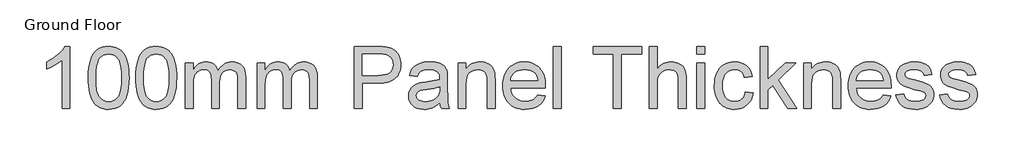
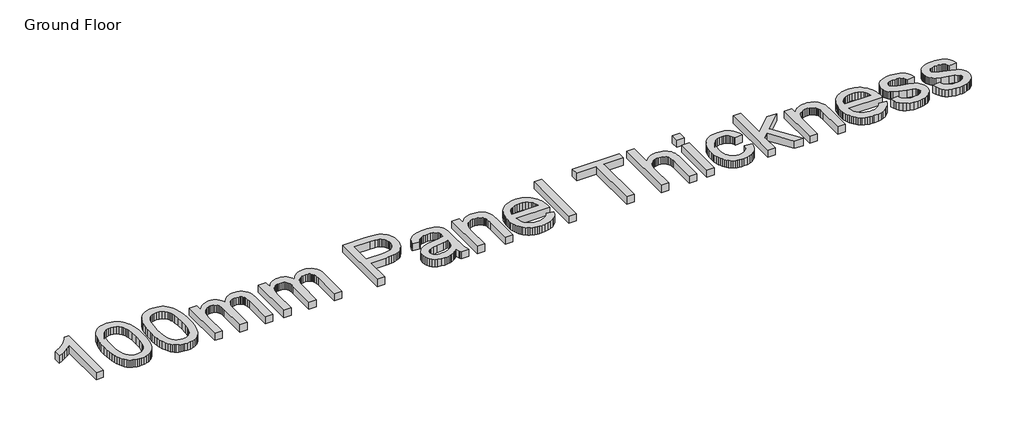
# One storey, part 7 of 9: 1 proxy.
"""IFC4 building model written with IfcOpenShell, lengths in millimetres."""

from ifc_helpers import new_model, si_unit, origin, origin_with_axes, place, context, project, spatial, polyline, outline, extrude, element, save

model = new_model("IFC4")

# Units and contexts
model_context = context("Model", 3, world=origin())
ifc_project = project(units=[si_unit("LENGTHUNIT", "METRE", prefix="MILLI")], contexts=[model_context])

# Site, building, storey
site = spatial("IfcSite", under=ifc_project)
building = spatial("IfcBuilding", under=site)
storey = spatial("IfcBuildingStorey", under=building, Name="Ground Floor", Elevation=0.0)

# Proxy
placement = place(None, origin())
element("IfcBuildingElementProxy", 1, Name="1200mm Arial", ObjectType="1200mm Arial", at=placement, inside=storey, context=model_context, shape_type="SweptSolid", body=[
    extrude(outline(polyline([(-21132.0074937, 10511.1336271), (-21278.9165846, 10511.1336271), (-21278.9165846, 11427.0199908), (-21340.2482607, 11377.4166527), (-21418.0785164, 11327.8850476), (-21499.7823516, 11284.5942095), (-21572.7347664, 11253.7131726), (-21572.7347664, 11392.5881726), (-21513.1157146, 11422.4828814), (-21457.352309, 11455.3545078), (-21405.4445498, 11491.2030519), (-21357.3924369, 11530.0285135), (-21314.6306293, 11570.0375689), (-21278.5937863, 11609.4368942), (-21249.2819078, 11648.2264894), (-21226.6949937, 11686.4063544), (-21132.0074937, 11686.4063544), (-21132.0074937, 10511.1336271)])), origin_with_axes(), (0.0, 0.0, 1.0), 150.0),
    extrude(outline(polyline([(-20783.0984028, 11089.3012408), (-20780.3994504, 11188.1223523), (-20772.3025931, 11277.4209141), (-20758.8078311, 11357.1969261), (-20739.9151641, 11427.4503885), (-20715.705292, 11488.7551648), (-20686.2589141, 11541.6851186), (-20651.5760306, 11586.24025), (-20611.6566414, 11622.420559), (-20566.3662472, 11650.4143445), (-20515.5703488, 11670.4099055), (-20459.2689461, 11682.4072422), (-20397.4620391, 11686.4063544), (-20351.0149511, 11684.0391669), (-20306.9350505, 11676.9376044), (-20265.2223374, 11665.1016669), (-20225.8768119, 11648.5313544), (-20189.8489355, 11627.5046321), (-20158.0891698, 11602.2994652), (-20130.597515, 11572.9158537), (-20107.373971, 11539.3537976), (-20087.2528772, 11501.7477962), (-20069.0685732, 11460.2323487), (-20038.5103346, 11365.4731158), (-20026.8357963, 11309.7455767), (-20018.4968403, 11245.1410845), (-20013.4934667, 11171.6596392), (-20011.8256755, 11089.3012408), (-20014.4977281, 10991.1077926), (-20022.5138857, 10902.2575618), (-20035.8741485, 10822.7505483), (-20054.5785164, 10752.5867521), (-20078.6000896, 10691.255076), (-20107.9119681, 10638.2444226), (-20142.5141521, 10593.5547919), (-20182.4066414, 10557.186184), (-20227.7508353, 10529.0040994), (-20278.7081329, 10508.8740391), (-20335.2785342, 10496.7960029), (-20397.4620391, 10492.7699908), (-20439.0671528, 10494.5184815), (-20478.3768119, 10499.7639538), (-20515.3910164, 10508.5064077), (-20550.1097664, 10520.745843), (-20582.5330619, 10536.48226), (-20612.6609028, 10555.7156584), (-20640.4932891, 10578.4460384), (-20666.030221, 10604.6733999), (-20693.4680761, 10646.2022972), (-20717.2475505, 10693.1739325), (-20737.3686443, 10745.5883058), (-20753.8313573, 10803.4454169), (-20766.6356897, 10866.745266), (-20775.7816414, 10935.487853), (-20781.2692124, 11009.6731779), (-20783.0984028, 11089.3012408)]), holes=[polyline([(-20636.1893119, 11089.5881726), (-20631.8853346, 10961.8766136), (-20618.9734028, 10858.5004595), (-20609.2894539, 10815.9381593), (-20597.4535164, 10779.4597102), (-20583.4655903, 10749.0651124), (-20567.3256755, 10724.7543658), (-20530.8853346, 10687.533929), (-20490.4279482, 10660.9479027), (-20445.9535164, 10644.9962869), (-20397.4620391, 10639.6790817), (-20348.9705619, 10645.0142202), (-20304.4961301, 10661.0196357), (-20264.0387437, 10687.6953281), (-20227.5984028, 10725.0412976), (-20211.458488, 10749.4103272), (-20197.4705619, 10779.8363082), (-20185.6346244, 10816.3192406), (-20175.9506755, 10858.8591243), (-20163.0387437, 10962.1097457), (-20158.7347664, 11089.5881726), (-20162.8952778, 11213.9193161), (-20175.3768119, 11315.4752465), (-20184.7379624, 11357.7125068), (-20196.1793687, 11394.2559638), (-20209.7010306, 11425.1056176), (-20225.3029482, 11450.261468), (-20261.133559, 11489.3021286), (-20302.0572096, 11517.1883146), (-20348.0738999, 11533.9200263), (-20399.1836301, 11539.4972635), (-20447.424042, 11534.5835561), (-20491.1452778, 11519.842434), (-20530.3473374, 11495.273897), (-20565.030221, 11460.8779453), (-20581.7081329, 11433.045559), (-20596.1623232, 11399.904934), (-20608.392792, 11361.4560703), (-20618.3995391, 11317.698968), (-20631.7418687, 11214.2600476), (-20636.1893119, 11089.5881726)])]), origin_with_axes(), (0.0, 0.0, 1.0), 150.0),
    extrude(outline(polyline([(-19883.280221, 11089.3012408), (-19880.5812686, 11188.1223523), (-19872.4844113, 11277.4209141), (-19858.9896492, 11357.1969261), (-19840.0969823, 11427.4503885), (-19815.8871102, 11488.7551648), (-19786.4407323, 11541.6851186), (-19751.7578488, 11586.24025), (-19711.8384596, 11622.420559), (-19666.5480654, 11650.4143445), (-19615.752167, 11670.4099055), (-19559.4507643, 11682.4072422), (-19497.6438573, 11686.4063544), (-19451.1967693, 11684.0391669), (-19407.1168687, 11676.9376044), (-19365.4041556, 11665.1016669), (-19326.0586301, 11648.5313544), (-19290.0307536, 11627.5046321), (-19258.270988, 11602.2994652), (-19230.7793332, 11572.9158537), (-19207.5557891, 11539.3537976), (-19187.4346954, 11501.7477962), (-19169.2503914, 11460.2323487), (-19138.6921528, 11365.4731158), (-19127.0176144, 11309.7455767), (-19118.6786585, 11245.1410845), (-19113.6752849, 11171.6596392), (-19112.0074937, 11089.3012408), (-19114.6795463, 10991.1077926), (-19122.6957039, 10902.2575618), (-19136.0559667, 10822.7505483), (-19154.7603346, 10752.5867521), (-19178.7819078, 10691.255076), (-19208.0937863, 10638.2444226), (-19242.6959703, 10593.5547919), (-19282.5884596, 10557.186184), (-19327.9326535, 10529.0040994), (-19378.8899511, 10508.8740391), (-19435.4603524, 10496.7960029), (-19497.6438573, 10492.7699908), (-19539.248971, 10494.5184815), (-19578.5586301, 10499.7639538), (-19615.5728346, 10508.5064077), (-19650.2915846, 10520.745843), (-19682.7148801, 10536.48226), (-19712.842721, 10555.7156584), (-19740.6751073, 10578.4460384), (-19766.2120391, 10604.6733999), (-19793.6498943, 10646.2022972), (-19817.4293687, 10693.1739325), (-19837.5504624, 10745.5883058), (-19854.0131755, 10803.4454169), (-19866.8175079, 10866.745266), (-19875.9634596, 10935.487853), (-19881.4510306, 11009.6731779), (-19883.280221, 11089.3012408)]), holes=[polyline([(-19736.3711301, 11089.5881726), (-19732.0671528, 10961.8766136), (-19719.155221, 10858.5004595), (-19709.4712721, 10815.9381593), (-19697.6353346, 10779.4597102), (-19683.6474085, 10749.0651124), (-19667.5074937, 10724.7543658), (-19631.0671528, 10687.533929), (-19590.6097664, 10660.9479027), (-19546.1353346, 10644.9962869), (-19497.6438573, 10639.6790817), (-19449.1523801, 10645.0142202), (-19404.6779482, 10661.0196357), (-19364.2205619, 10687.6953281), (-19327.780221, 10725.0412976), (-19311.6403062, 10749.4103272), (-19297.6523801, 10779.8363082), (-19285.8164426, 10816.3192406), (-19276.1324937, 10858.8591243), (-19263.2205619, 10962.1097457), (-19258.9165846, 11089.5881726), (-19263.077096, 11213.9193161), (-19275.5586301, 11315.4752465), (-19284.9197806, 11357.7125068), (-19296.3611869, 11394.2559638), (-19309.8828488, 11425.1056176), (-19325.4847664, 11450.261468), (-19361.3153772, 11489.3021286), (-19402.2390278, 11517.1883146), (-19448.2557181, 11533.9200263), (-19499.3654482, 11539.4972635), (-19547.6058602, 11534.5835561), (-19591.327096, 11519.842434), (-19630.5291556, 11495.273897), (-19665.2120391, 11460.8779453), (-19681.8899511, 11433.045559), (-19696.3441414, 11399.904934), (-19708.5746102, 11361.4560703), (-19718.5813573, 11317.698968), (-19731.9236869, 11214.2600476), (-19736.3711301, 11089.5881726)])]), origin_with_axes(), (0.0, 0.0, 1.0), 150.0),
    extrude(outline(polyline([(-18946.7347664, 10511.1336271), (-18946.7347664, 11374.2245362), (-18799.8256755, 11374.2245362), (-18799.8256755, 11232.1932862), (-18779.3100505, 11266.5802713), (-18755.6381755, 11297.4344084), (-18728.8100505, 11324.7556975), (-18698.8256755, 11348.5441385), (-18666.169248, 11367.8134034), (-18631.3249653, 11381.5771641), (-18594.2928275, 11389.8354205), (-18555.0728346, 11392.5881726), (-18512.194461, 11389.7816207), (-18473.3689994, 11381.3619652), (-18438.5964497, 11367.329206), (-18407.8768119, 11347.683343), (-18381.2997522, 11322.9803068), (-18358.9549369, 11293.7760277), (-18340.8423659, 11260.0705057), (-18326.9620391, 11221.8637408), (-18301.1292089, 11261.8772795), (-18273.4133886, 11296.5556797), (-18243.8145782, 11325.8989414), (-18212.3327778, 11349.9070646), (-18178.9679873, 11368.5800494), (-18143.7202068, 11381.9178956), (-18106.5894362, 11389.9206033), (-18067.5756755, 11392.5881726), (-18008.7636194, 11388.149696), (-17957.142792, 11374.8342663), (-17912.7131933, 11352.6418835), (-17875.4748232, 11321.5725476), (-17846.037412, 11281.2675938), (-17825.0106897, 11231.3683573), (-17812.3946563, 11171.8748381), (-17808.1893119, 11102.7870362), (-17808.1893119, 10511.1336271), (-17955.0984028, 10511.1336271), (-17955.0984028, 11039.6620362), (-17958.5057181, 11112.9372493), (-17968.7276641, 11162.3253885), (-17976.9231542, 11180.1420611), (-17987.880363, 11196.1474766), (-18001.5992906, 11210.341635), (-18018.0799369, 11222.7245362), (-18036.7215384, 11232.7671499), (-18056.9233318, 11239.9404453), (-18102.0074937, 11245.6790817), (-18143.6395072, 11242.0027678), (-18181.5952068, 11230.973826), (-18215.8745924, 11212.5922564), (-18246.4776641, 11186.858059), (-18271.6469646, 11153.0180377), (-18289.6250363, 11110.3189965), (-18300.4118793, 11058.7609354), (-18304.0074937, 10998.3438544), (-18304.0074937, 10511.1336271), (-18450.9165846, 10511.1336271), (-18450.9165846, 11056.0171499), (-18453.0416734, 11100.5274482), (-18459.4169397, 11139.0839112), (-18470.0423836, 11171.6865391), (-18484.9180051, 11198.3353317), (-18504.6356009, 11219.0482223), (-18529.7869681, 11233.8431442), (-18560.3721066, 11242.7200973), (-18596.3910164, 11245.6790817), (-18625.2455974, 11243.7064254), (-18652.9883176, 11237.7884567), (-18679.6191769, 11227.9251754), (-18705.1381755, 11214.1165817), (-18728.3796528, 11196.5061413), (-18748.1779482, 11175.2373203), (-18764.5330619, 11150.3101186), (-18777.4449937, 11121.7245362), (-18787.236542, 11087.9562479), (-18794.2305051, 11047.4809283), (-18799.8256755, 10946.4091953), (-18799.8256755, 10511.1336271), (-18946.7347664, 10511.1336271)])), origin_with_axes(), (0.0, 0.0, 1.0), 150.0),
    extrude(outline(polyline([(-17587.8256755, 10511.1336271), (-17587.8256755, 11374.2245362), (-17440.9165846, 11374.2245362), (-17440.9165846, 11232.1932862), (-17420.4009596, 11266.5802713), (-17396.7290846, 11297.4344084), (-17369.9009596, 11324.7556975), (-17339.9165846, 11348.5441385), (-17307.260157, 11367.8134034), (-17272.4158744, 11381.5771641), (-17235.3837366, 11389.8354205), (-17196.1637437, 11392.5881726), (-17153.2853701, 11389.7816207), (-17114.4599085, 11381.3619652), (-17079.6873588, 11367.329206), (-17048.967721, 11347.683343), (-17022.3906613, 11322.9803068), (-17000.045846, 11293.7760277), (-16981.9332749, 11260.0705057), (-16968.0529482, 11221.8637408), (-16942.220118, 11261.8772795), (-16914.5042977, 11296.5556797), (-16884.9054873, 11325.8989414), (-16853.4236869, 11349.9070646), (-16820.0588964, 11368.5800494), (-16784.8111159, 11381.9178956), (-16747.6803453, 11389.9206033), (-16708.6665846, 11392.5881726), (-16649.8545285, 11388.149696), (-16598.2337011, 11374.8342663), (-16553.8041024, 11352.6418835), (-16516.5657323, 11321.5725476), (-16487.1283211, 11281.2675938), (-16466.1015988, 11231.3683573), (-16453.4855654, 11171.8748381), (-16449.280221, 11102.7870362), (-16449.280221, 10511.1336271), (-16596.1893119, 10511.1336271), (-16596.1893119, 11039.6620362), (-16599.5966272, 11112.9372493), (-16609.8185732, 11162.3253885), (-16618.0140633, 11180.1420611), (-16628.9712721, 11196.1474766), (-16642.6901997, 11210.341635), (-16659.170846, 11222.7245362), (-16677.8124475, 11232.7671499), (-16698.0142409, 11239.9404453), (-16743.0984028, 11245.6790817), (-16784.7304163, 11242.0027678), (-16822.6861159, 11230.973826), (-16856.9655015, 11212.5922564), (-16887.5685732, 11186.858059), (-16912.7378737, 11153.0180377), (-16930.7159454, 11110.3189965), (-16941.5027884, 11058.7609354), (-16945.0984028, 10998.3438544), (-16945.0984028, 10511.1336271), (-17092.0074937, 10511.1336271), (-17092.0074937, 11056.0171499), (-17094.1325825, 11100.5274482), (-17100.5078488, 11139.0839112), (-17111.1332927, 11171.6865391), (-17126.0089141, 11198.3353317), (-17145.72651, 11219.0482223), (-17170.8778772, 11233.8431442), (-17201.4630157, 11242.7200973), (-17237.4819255, 11245.6790817), (-17266.3365065, 11243.7064254), (-17294.0792266, 11237.7884567), (-17320.710086, 11227.9251754), (-17346.2290846, 11214.1165817), (-17369.4705619, 11196.5061413), (-17389.2688573, 11175.2373203), (-17405.623971, 11150.3101186), (-17418.5359028, 11121.7245362), (-17428.3274511, 11087.9562479), (-17435.3214141, 11047.4809283), (-17440.9165846, 10946.4091953), (-17440.9165846, 10511.1336271), (-17587.8256755, 10511.1336271)])), origin_with_axes(), (0.0, 0.0, 1.0), 150.0),
    extrude(outline(polyline([(-15751.4620391, 10511.1336271), (-15751.4620391, 11686.4063544), (-15315.8995391, 11686.4063544), (-15214.4691414, 11683.6087692), (-15140.2972664, 11675.2160135), (-15099.418449, 11666.4018267), (-15062.0007465, 11654.3058573), (-15028.0441592, 11638.9281051), (-14997.5486869, 11620.2685703), (-14970.1915313, 11597.9416882), (-14945.6498943, 11571.5618942), (-14923.9237757, 11541.1291882), (-14905.0131755, 11506.6435703), (-14889.6981897, 11469.2438011), (-14878.7589141, 11430.0686413), (-14872.1953488, 11389.1180909), (-14870.0074937, 11346.3921499), (-14875.9164958, 11274.2467308), (-14883.3027485, 11240.3394599), (-14893.6435022, 11207.8758146), (-14906.938757, 11176.8557951), (-14923.1885129, 11147.2794013), (-14942.3927698, 11119.1466332), (-14964.5515278, 11092.4574908), (-14990.5659321, 11068.1131193), (-15021.3371279, 11047.0146641), (-15056.8651153, 11029.162125), (-15097.1498943, 11014.5555021), (-15142.1914648, 11003.1947955), (-15191.9898268, 10995.080005), (-15246.5449804, 10990.2111307), (-15305.8569255, 10988.5881726), (-15604.5529482, 10988.5881726), (-15604.5529482, 10511.1336271), (-15751.4620391, 10511.1336271)]), holes=[polyline([(-15604.5529482, 11135.4972635), (-15297.248971, 11135.4972635), (-15226.5920107, 11138.8687124), (-15166.9819255, 11148.983059), (-15118.4187153, 11165.8403033), (-15080.9023801, 11189.4404453), (-15052.9085945, 11219.1558217), (-15032.9130335, 11254.3587692), (-15020.9156968, 11295.0492877), (-15016.9165846, 11341.2273771), (-15019.2748055, 11375.5157294), (-15026.3494681, 11407.2216953), (-15038.1405725, 11436.3452749), (-15054.6481187, 11462.886468), (-15074.9933779, 11485.9844794), (-15098.2976215, 11504.7785135), (-15124.5608495, 11519.2685703), (-15153.7830619, 11529.4546499), (-15210.452096, 11536.9866101), (-15300.6921528, 11539.4972635), (-15604.5529482, 11539.4972635), (-15604.5529482, 11135.4972635)])]), origin_with_axes(), (0.0, 0.0, 1.0), 150.0),
    extrude(outline(polyline([(-14135.4620391, 10621.3154453), (-14170.2973552, 10588.6231513), (-14205.6527352, 10561.1314965), (-14241.5281791, 10538.8404808), (-14277.9236869, 10521.7501044), (-14315.2517231, 10509.0713047), (-14353.9247522, 10500.0150192), (-14393.9427742, 10494.5812479), (-14435.3057891, 10492.7699908), (-14500.7172771, 10497.1277678), (-14558.0767409, 10510.2010987), (-14607.3841805, 10531.9899837), (-14648.639596, 10562.4944226), (-14681.215324, 10599.7776257), (-14704.4837011, 10641.9028033), (-14718.4447274, 10688.8699553), (-14723.0984028, 10740.6790817), (-14721.3409454, 10771.8291172), (-14716.0685732, 10801.5803601), (-14707.2812863, 10829.9328104), (-14694.9790846, 10856.886468), (-14679.8165313, 10881.8495362), (-14662.4481897, 10904.230218), (-14642.8740597, 10924.0285135), (-14621.0941414, 10941.2444226), (-14572.4950647, 10969.2202749), (-14518.2290846, 10989.448968), (-14465.3618971, 11000.7110419), (-14391.1182891, 11011.542718), (-14240.9094823, 11034.7841953), (-14182.9133886, 11047.911326), (-14136.3228346, 11062.042718), (-14135.4620391, 11094.7529453), (-14137.9906258, 11130.3683573), (-14145.5763857, 11160.3168658), (-14158.219319, 11184.5984709), (-14175.9194255, 11203.2131726), (-14206.5135306, 11221.7920078), (-14243.7788005, 11235.0626044), (-14287.7152352, 11243.0249624), (-14338.3228346, 11245.6790817), (-14385.3796528, 11243.9126577), (-14425.8370391, 11238.6133857), (-14459.6949937, 11229.7812656), (-14486.9535164, 11217.4162976), (-14509.3521315, 11200.5500867), (-14528.630363, 11178.2142379), (-14544.788211, 11150.4087514), (-14557.8256755, 11117.1336271), (-14704.7347664, 11135.4972635), (-14693.5533921, 11177.8197067), (-14679.2337011, 11215.8381726), (-14661.7756933, 11249.5526612), (-14641.1793687, 11278.9631726), (-14616.557032, 11304.6615036), (-14587.020988, 11327.239451), (-14552.5712366, 11346.6970149), (-14513.2077778, 11363.0341953), (-14469.7286407, 11375.9640604), (-14422.9318545, 11385.1996783), (-14372.8174191, 11390.741049), (-14319.3853346, 11392.5881726), (-14267.1547771, 11390.9562479), (-14220.071059, 11386.0604737), (-14178.1341805, 11377.9008502), (-14141.3441414, 11366.4773771), (-14109.3960768, 11352.5880838), (-14081.9851215, 11337.0309993), (-14059.1112757, 11319.8061236), (-14040.7745391, 11300.9134567), (-14025.9078843, 11279.8867344), (-14013.4442835, 11256.2596925), (-13995.7262437, 11201.2046499), (-13990.3462721, 11150.417718), (-13988.5529482, 11072.6591953), (-13988.5529482, 10889.8836271), (-13986.6878914, 10730.6723345), (-13981.092721, 10634.6577749), (-13970.045846, 10571.5686413), (-13951.8256755, 10511.1336271), (-14098.7347664, 10511.1336271), (-14111.7901641, 10535.6662976), (-14122.2631755, 10562.2074908), (-14135.4620391, 10621.3154453)]), holes=[polyline([(-14135.4620391, 10915.1336271), (-14179.864738, 10902.4189609), (-14234.1665846, 10890.6726896), (-14372.467721, 10870.0853317), (-14448.6839852, 10858.8232578), (-14498.8611869, 10846.2699908), (-14531.7507465, 10829.9866101), (-14556.1040846, 10807.5341953), (-14571.1680051, 10780.6343374), (-14576.1893119, 10751.0086271), (-14573.454493, 10728.1796144), (-14565.2500363, 10707.3232578), (-14551.5759418, 10688.4395575), (-14532.4322096, 10671.5285135), (-14507.998172, 10657.5943871), (-14478.4531613, 10647.6414396), (-14443.7971776, 10641.6696712), (-14404.030221, 10639.6790817), (-14363.4293687, 10641.8759034), (-14325.123971, 10648.4663686), (-14289.1140278, 10659.4504773), (-14255.3995391, 10674.8282294), (-14224.9847664, 10693.3263651), (-14198.873971, 10713.6716243), (-14177.0671528, 10735.8640071), (-14159.5643119, 10759.9035135), (-14149.3961656, 10781.4233999), (-14142.1332039, 10807.5341953), (-14137.7754269, 10838.2358999), (-14136.3228346, 10873.5285135), (-14135.4620391, 10915.1336271)])]), origin_with_axes(), (0.0, 0.0, 1.0), 150.0),
    extrude(outline(polyline([(-13786.5529482, 10511.1336271), (-13786.5529482, 11374.2245362), (-13639.6438573, 11374.2245362), (-13639.6438573, 11253.7131726), (-13615.4070853, 11286.2620007), (-13588.6058602, 11314.4709851), (-13559.2401819, 11338.3401257), (-13527.3100505, 11357.8694226), (-13492.815466, 11373.0588757), (-13455.7564284, 11383.9084851), (-13416.1329376, 11390.4182507), (-13373.9449937, 11392.5881726), (-13336.9756222, 11390.8396818), (-13301.5305761, 11385.5942095), (-13267.6098552, 11376.8517557), (-13235.2134596, 11364.6123203), (-13205.5698161, 11349.5304666), (-13179.9073516, 11332.2607578), (-13158.2260661, 11312.8031939), (-13140.5259596, 11291.1577749), (-13113.805434, 11241.4109709), (-13096.4819255, 11183.1279453), (-13090.6715562, 11127.3914396), (-13088.7347664, 11041.0966953), (-13088.7347664, 10511.1336271), (-13235.6438573, 10511.1336271), (-13235.6438573, 11021.2983999), (-13239.8761016, 11097.2635987), (-13245.166407, 11127.0148416), (-13252.5728346, 11151.2785135), (-13262.6602813, 11171.7134389), (-13275.9936443, 11189.9784425), (-13292.5729234, 11206.0735242), (-13312.3981187, 11219.998684), (-13334.7877671, 11231.233858), (-13359.0604056, 11239.2589823), (-13385.2160342, 11244.0740568), (-13413.2546528, 11245.6790817), (-13457.8635839, 11242.0745007), (-13499.2983318, 11231.2607578), (-13537.5588964, 11213.237853), (-13572.6452778, 11188.0057862), (-13588.3480699, 11171.9689876), (-13601.9571563, 11152.6952394), (-13613.4725372, 11130.1845416), (-13622.8942124, 11104.4368942), (-13635.4564461, 11043.2307507), (-13639.6438573, 10969.076809), (-13639.6438573, 10511.1336271), (-13786.5529482, 10511.1336271)])), origin_with_axes(), (0.0, 0.0, 1.0), 150.0),
    extrude(outline(polyline([(-12282.4563573, 10768.2245362), (-12138.4165846, 10749.8608999), (-12160.501368, 10692.1696712), (-12190.3153772, 10641.3289396), (-12227.8586123, 10597.3387053), (-12273.1310732, 10560.198968), (-12325.6664958, 10530.6987905), (-12384.9986159, 10509.6272351), (-12451.1274333, 10496.9843019), (-12524.0529482, 10492.7699908), (-12570.872151, 10494.5879728), (-12615.2076002, 10500.041919), (-12657.0592959, 10509.1318294), (-12696.427238, 10521.8577038), (-12733.3114266, 10538.2195424), (-12767.7118616, 10558.2173452), (-12799.6285431, 10581.851112), (-12829.061471, 10609.120843), (-12855.4905814, 10639.6723567), (-12878.3958105, 10673.1514716), (-12897.7771581, 10709.5581877), (-12913.6346244, 10748.892505), (-12925.9682092, 10791.1544235), (-12934.7779127, 10836.3439432), (-12940.0637348, 10884.4610641), (-12941.8256755, 10935.5057862), (-12940.0458016, 10988.2877908), (-12934.7061798, 11038.0301115), (-12925.8068101, 11084.7327482), (-12913.3476926, 11128.395701), (-12897.3288271, 11169.0189698), (-12877.7502139, 11206.6025547), (-12854.6118527, 11241.1464556), (-12827.9137437, 11272.6506726), (-12798.3776997, 11300.7610242), (-12766.7255335, 11325.1233288), (-12732.9572451, 11345.7375867), (-12697.0728346, 11362.6037976), (-12659.0723019, 11375.7219617), (-12618.9556471, 11385.0920788), (-12576.7228701, 11390.7141492), (-12532.373971, 11392.5881726), (-12489.4754225, 11390.7186325), (-12448.5809134, 11385.1100121), (-12409.6904438, 11375.7623114), (-12372.8040136, 11362.6755305), (-12337.9216228, 11345.8496694), (-12305.0432714, 11325.284728), (-12274.1689594, 11300.9807063), (-12245.2986869, 11272.9376044), (-12219.1721998, 11241.5051204), (-12196.5292444, 11207.0329524), (-12177.3698206, 11169.5211005), (-12161.6939284, 11128.9695646), (-12149.5015677, 11085.3783448), (-12140.7927387, 11038.7474411), (-12135.5674413, 10989.0768533), (-12133.8256755, 10936.3665817), (-12134.686471, 10896.7699908), (-12794.9165846, 10896.7699908), (-12786.4072629, 10838.1462337), (-12769.4872522, 10786.8033715), (-12744.1565526, 10742.7414041), (-12710.4151641, 10705.9603317), (-12670.1281436, 10676.9622848), (-12625.1605477, 10656.2493942), (-12575.5123765, 10643.8216598), (-12521.1836301, 10639.6790817), (-12480.5469113, 10641.5979382), (-12442.9947096, 10647.3545078), (-12408.5270249, 10656.9487905), (-12377.1438573, 10670.3807862), (-12348.8452068, 10688.0091598), (-12323.6310732, 10710.192576), (-12301.5014568, 10736.9310348), (-12282.4563573, 10768.2245362)]), holes=[polyline([(-12794.9165846, 11043.6790817), (-12280.7347664, 11043.6790817), (-12288.2846599, 11085.2483288), (-12300.6047948, 11121.2941385), (-12317.6951713, 11151.8165107), (-12339.5557891, 11176.8154453), (-12379.6186443, 11206.9432862), (-12425.2049369, 11228.4631726), (-12476.314667, 11241.3751044), (-12532.9478346, 11245.6790817), (-12584.6045285, 11242.2448665), (-12631.9751784, 11231.9422209), (-12675.0597842, 11214.7711449), (-12713.858346, 11190.7316385), (-12746.4161407, 11160.9355625), (-12770.7784454, 11126.4947777), (-12786.94526, 11087.4092841), (-12794.9165846, 11043.6790817)])]), origin_with_axes(), (0.0, 0.0, 1.0), 150.0),
    extrude(outline(polyline([(-11986.9165846, 10511.1336271), (-11986.9165846, 11686.4063544), (-11840.0074937, 11686.4063544), (-11840.0074937, 10511.1336271), (-11986.9165846, 10511.1336271)])), origin_with_axes(), (0.0, 0.0, 1.0), 150.0),
    extrude(outline(polyline([(-10848.3711301, 10511.1336271), (-10848.3711301, 11539.4972635), (-11234.0074937, 11539.4972635), (-11234.0074937, 11686.4063544), (-10315.8256755, 11686.4063544), (-10315.8256755, 11539.4972635), (-10701.4620391, 11539.4972635), (-10701.4620391, 10511.1336271), (-10848.3711301, 10511.1336271)])), origin_with_axes(), (0.0, 0.0, 1.0), 150.0),
    extrude(outline(polyline([(-10168.9165846, 10511.1336271), (-10168.9165846, 11686.4063544), (-10022.0074937, 11686.4063544), (-10022.0074937, 11254.2870362), (-9995.8563485, 11286.7013651), (-9968.0463786, 11314.7937834), (-9938.5775842, 11338.5642912), (-9907.4499653, 11358.0128885), (-9874.6635217, 11373.1395753), (-9840.2182536, 11383.9443516), (-9804.114161, 11390.4272173), (-9766.3512437, 11392.5881726), (-9720.4242195, 11390.2299517), (-9677.6175789, 11383.1552891), (-9637.9313218, 11371.3641847), (-9601.3654482, 11354.8566385), (-9568.8524866, 11334.188581), (-9541.3249653, 11309.9159425), (-9518.7828843, 11282.038723), (-9501.2262437, 11250.5569226), (-9488.0453133, 11213.5247848), (-9478.630363, 11168.9965533), (-9472.9813928, 11116.972228), (-9471.0984028, 11057.451809), (-9471.0984028, 10511.1336271), (-9618.0074937, 10511.1336271), (-9618.0074937, 11042.2444226), (-9620.9306116, 11091.8477607), (-9629.6999653, 11134.2060703), (-9644.3155548, 11169.3193516), (-9664.7773801, 11197.1876044), (-9690.6012437, 11218.4026257), (-9721.3029482, 11233.5562124), (-9756.8824937, 11242.6483644), (-9797.3398801, 11245.6790817), (-9828.857547, 11243.6346925), (-9859.4247522, 11237.5015249), (-9889.0414958, 11227.2795788), (-9917.7077778, 11212.9688544), (-9943.872373, 11195.1611484), (-9965.9840562, 11174.4482578), (-9984.0428275, 11150.8301825), (-9998.0486869, 11124.3069226), (-10008.5306649, 11093.6590178), (-10016.017792, 11057.6670078), (-10020.5100683, 11016.3308928), (-10022.0074937, 10969.6506726), (-10022.0074937, 10511.1336271), (-10168.9165846, 10511.1336271)])), origin_with_axes(), (0.0, 0.0, 1.0), 150.0),
    extrude(outline(polyline([(-9269.0984028, 10511.1336271), (-9269.0984028, 11374.2245362), (-9122.1893119, 11374.2245362), (-9122.1893119, 10511.1336271), (-9269.0984028, 10511.1336271)])), origin_with_axes(), (0.0, 0.0, 1.0), 150.0),
    extrude(outline(polyline([(-9269.0984028, 11539.4972635), (-9269.0984028, 11686.4063544), (-9122.1893119, 11686.4063544), (-9122.1893119, 11539.4972635), (-9269.0984028, 11539.4972635)])), origin_with_axes(), (0.0, 0.0, 1.0), 150.0),
    extrude(outline(polyline([(-8350.9165846, 10823.3154453), (-8204.0074937, 10804.951809), (-8219.9860093, 10735.630875), (-8244.9670107, 10674.2902323), (-8278.950498, 10620.9298807), (-8321.936471, 10575.5498203), (-8372.1136727, 10539.3336449), (-8427.670846, 10513.4649482), (-8488.6079909, 10497.9437301), (-8554.9251073, 10492.7699908), (-8597.1870258, 10494.5745229), (-8637.3193722, 10499.9881193), (-8675.3221466, 10509.01078), (-8711.1953488, 10521.642505), (-8744.938979, 10537.8832942), (-8776.553037, 10557.7331477), (-8806.037523, 10581.1920655), (-8833.3924369, 10608.2600476), (-8858.0394317, 10638.6994785), (-8879.4001606, 10672.2727429), (-8897.4746235, 10708.9798407), (-8912.2628204, 10748.820772), (-8923.7647513, 10791.7955368), (-8931.9804163, 10837.904135), (-8936.9098152, 10887.1465666), (-8938.5529482, 10939.5228317), (-8935.7463964, 11007.068375), (-8927.3267409, 11070.2561413), (-8913.2939816, 11129.0861307), (-8893.6481187, 11183.558343), (-8868.2546528, 11232.5788509), (-8836.9790846, 11275.0537266), (-8799.8214141, 11310.9829702), (-8756.7816414, 11340.3665817), (-8709.8055228, 11363.2135277), (-8660.8388147, 11379.5327749), (-8609.8815171, 11389.3243232), (-8556.9336301, 11392.5881726), (-8491.7552742, 11388.1048629), (-8432.7997522, 11374.654934), (-8380.067064, 11352.2383857), (-8333.5572096, 11320.855218), (-8294.0592515, 11281.2227607), (-8262.3622522, 11234.058343), (-8238.4662117, 11179.3619652), (-8222.3711301, 11117.1336271), (-8369.280221, 11098.7699908), (-8380.7485271, 11133.0852429), (-8395.9290136, 11162.8633857), (-8414.8216805, 11188.104419), (-8437.4265278, 11208.808343), (-8463.1696918, 11224.9392912), (-8491.477309, 11236.461397), (-8522.3493793, 11243.3746605), (-8555.7859028, 11245.6790817), (-8605.7030725, 11241.1419723), (-8650.7244681, 11227.5306442), (-8690.8500896, 11204.8450973), (-8726.0799369, 11173.0853317), (-8741.4464807, 11153.6188011), (-8754.7641521, 11131.5160845), (-8775.2528772, 11079.402093), (-8787.5461123, 11016.7433573), (-8791.6438573, 10943.5398771), (-8787.6357785, 10869.2335029), (-8775.611542, 10805.8484709), (-8755.5711478, 10753.3847813), (-8742.5448916, 10731.2484398), (-8727.514596, 10711.842434), (-8692.984145, 10680.2709673), (-8653.5220534, 10657.7199198), (-8609.1283211, 10644.1892912), (-8559.8029482, 10639.6790817), (-8520.0539248, 10642.4946002), (-8483.7301499, 10650.9411555), (-8450.8316237, 10665.0187479), (-8421.358346, 10684.7273771), (-8396.1352458, 10710.2822422), (-8375.9872522, 10741.8985419), (-8360.9143651, 10779.5762763), (-8350.9165846, 10823.3154453)])), origin_with_axes(), (0.0, 0.0, 1.0), 150.0),
    extrude(outline(polyline([(-8075.4620391, 10511.1336271), (-8075.4620391, 11686.4063544), (-7928.5529482, 11686.4063544), (-7928.5529482, 11054.8694226), (-7599.155221, 11374.2245362), (-7396.0074937, 11374.2245362), (-7729.4222664, 11050.8523771), (-7377.6438573, 10511.1336271), (-7549.2290846, 10511.1336271), (-7834.7262437, 10948.7046499), (-7928.5529482, 10857.7472635), (-7928.5529482, 10511.1336271), (-8075.4620391, 10511.1336271)])), origin_with_axes(), (0.0, 0.0, 1.0), 150.0),
    extrude(outline(polyline([(-7249.0984028, 10511.1336271), (-7249.0984028, 11374.2245362), (-7102.1893119, 11374.2245362), (-7102.1893119, 11253.7131726), (-7077.9525399, 11286.2620007), (-7051.1513147, 11314.4709851), (-7021.7856365, 11338.3401257), (-6989.8555051, 11357.8694226), (-6955.3609205, 11373.0588757), (-6918.3018829, 11383.9084851), (-6878.6783921, 11390.4182507), (-6836.4904482, 11392.5881726), (-6799.5210768, 11390.8396818), (-6764.0760306, 11385.5942095), (-6730.1553097, 11376.8517557), (-6697.7589141, 11364.6123203), (-6668.1152707, 11349.5304666), (-6642.4528062, 11332.2607578), (-6620.7715207, 11312.8031939), (-6603.0714141, 11291.1577749), (-6576.3508886, 11241.4109709), (-6559.0273801, 11183.1279453), (-6553.2170107, 11127.3914396), (-6551.280221, 11041.0966953), (-6551.280221, 10511.1336271), (-6698.1893119, 10511.1336271), (-6698.1893119, 11021.2983999), (-6702.4215562, 11097.2635987), (-6707.7118616, 11127.0148416), (-6715.1182891, 11151.2785135), (-6725.2057359, 11171.7134389), (-6738.5390988, 11189.9784425), (-6755.1183779, 11206.0735242), (-6774.9435732, 11219.998684), (-6797.3332217, 11231.233858), (-6821.6058602, 11239.2589823), (-6847.7614887, 11244.0740568), (-6875.8001073, 11245.6790817), (-6920.4090384, 11242.0745007), (-6961.8437863, 11231.2607578), (-7000.1043509, 11213.237853), (-7035.1907323, 11188.0057862), (-7050.8935244, 11171.9689876), (-7064.5026109, 11152.6952394), (-7076.0179917, 11130.1845416), (-7085.439667, 11104.4368942), (-7098.0019007, 11043.2307507), (-7102.1893119, 10969.076809), (-7102.1893119, 10511.1336271), (-7249.0984028, 10511.1336271)])), origin_with_axes(), (0.0, 0.0, 1.0), 150.0),
    extrude(outline(polyline([(-5745.0018119, 10768.2245362), (-5600.9620391, 10749.8608999), (-5623.0468225, 10692.1696712), (-5652.8608318, 10641.3289396), (-5690.4040668, 10597.3387053), (-5735.6765278, 10560.198968), (-5788.2119504, 10530.6987905), (-5847.5440704, 10509.6272351), (-5913.6728879, 10496.9843019), (-5986.5984028, 10492.7699908), (-6033.4176056, 10494.5879728), (-6077.7530548, 10500.041919), (-6119.6047504, 10509.1318294), (-6158.9726926, 10521.8577038), (-6195.8568811, 10538.2195424), (-6230.2573161, 10558.2173452), (-6262.1739976, 10581.851112), (-6291.6069255, 10609.120843), (-6318.036036, 10639.6723567), (-6340.941265, 10673.1514716), (-6360.3226127, 10709.5581877), (-6376.1800789, 10748.892505), (-6388.5136638, 10791.1544235), (-6397.3233673, 10836.3439432), (-6402.6091894, 10884.4610641), (-6404.3711301, 10935.5057862), (-6402.5912561, 10988.2877908), (-6397.2516343, 11038.0301115), (-6388.3522646, 11084.7327482), (-6375.8931471, 11128.395701), (-6359.8742817, 11169.0189698), (-6340.2956684, 11206.6025547), (-6317.1573073, 11241.1464556), (-6290.4591982, 11272.6506726), (-6260.9231542, 11300.7610242), (-6229.270988, 11325.1233288), (-6195.5026997, 11345.7375867), (-6159.6182891, 11362.6037976), (-6121.6177565, 11375.7219617), (-6081.5011016, 11385.0920788), (-6039.2683247, 11390.7141492), (-5994.9194255, 11392.5881726), (-5952.020877, 11390.7186325), (-5911.126368, 11385.1100121), (-5872.2358983, 11375.7623114), (-5835.3494681, 11362.6755305), (-5800.4670773, 11345.8496694), (-5767.5887259, 11325.284728), (-5736.714414, 11300.9807063), (-5707.8441414, 11272.9376044), (-5681.7176544, 11241.5051204), (-5659.074699, 11207.0329524), (-5639.9152751, 11169.5211005), (-5624.2393829, 11128.9695646), (-5612.0470223, 11085.3783448), (-5603.3381933, 11038.7474411), (-5598.1128959, 10989.0768533), (-5596.3711301, 10936.3665817), (-5597.2319255, 10896.7699908), (-6257.4620391, 10896.7699908), (-6248.9527174, 10838.1462337), (-6232.0327068, 10786.8033715), (-6206.7020072, 10742.7414041), (-6172.9606187, 10705.9603317), (-6132.6735981, 10676.9622848), (-6087.7060022, 10656.2493942), (-6038.0578311, 10643.8216598), (-5983.7290846, 10639.6790817), (-5943.0923659, 10641.5979382), (-5905.5401641, 10647.3545078), (-5871.0724795, 10656.9487905), (-5839.6893119, 10670.3807862), (-5811.3906613, 10688.0091598), (-5786.1765278, 10710.192576), (-5764.0469113, 10736.9310348), (-5745.0018119, 10768.2245362)]), holes=[polyline([(-6257.4620391, 11043.6790817), (-5743.280221, 11043.6790817), (-5750.8301144, 11085.2483288), (-5763.1502494, 11121.2941385), (-5780.2406258, 11151.8165107), (-5802.1012437, 11176.8154453), (-5842.1640988, 11206.9432862), (-5887.7503914, 11228.4631726), (-5938.8601215, 11241.3751044), (-5995.4932891, 11245.6790817), (-6047.149983, 11242.2448665), (-6094.5206329, 11231.9422209), (-6137.6052387, 11214.7711449), (-6176.4038005, 11190.7316385), (-6208.9615953, 11160.9355625), (-6233.3238999, 11126.4947777), (-6249.4907146, 11087.4092841), (-6257.4620391, 11043.6790817)])]), origin_with_axes(), (0.0, 0.0, 1.0), 150.0),
    extrude(outline(polyline([(-5504.5529482, 10768.2245362), (-5357.6438573, 10786.5881726), (-5348.7669042, 10753.0888828), (-5334.474113, 10723.7501044), (-5314.7654838, 10698.5718374), (-5289.6410164, 10677.5540817), (-5259.0289781, 10660.9837692), (-5222.8576357, 10649.1478317), (-5181.1269894, 10642.0462692), (-5133.8370391, 10639.6790817), (-5086.6008886, 10641.8490036), (-5045.8924369, 10648.3587692), (-5011.711684, 10659.2083786), (-4984.0586301, 10674.3978317), (-4962.7180761, 10692.5104027), (-4947.4748232, 10712.1293658), (-4938.3288715, 10733.2547209), (-4935.280221, 10755.886468), (-4938.3468048, 10775.72063), (-4947.5465562, 10793.3310703), (-4962.8794752, 10808.7177891), (-4984.3455619, 10821.8807862), (-5039.364738, 10840.5313544), (-5135.5586301, 10863.7728317), (-5269.6275221, 10902.5444936), (-5356.7830619, 10935.6492521), (-5386.7046705, 10952.2464645), (-5412.7706329, 10971.7667948), (-5434.980949, 10994.2102429), (-5453.3356187, 11019.576809), (-5467.7091095, 11047.1043303), (-5477.9758886, 11076.0306442), (-5484.1359561, 11106.3557507), (-5486.1893119, 11138.0796499), (-5484.5394539, 11167.0866634), (-5479.5898801, 11194.9997493), (-5471.3405903, 11221.8189077), (-5459.7915846, 11247.5441385), (-5445.391194, 11271.6553779), (-5428.5877494, 11293.6325618), (-5409.3812508, 11313.4756904), (-5387.7716982, 11331.1847635), (-5347.2067124, 11354.820772), (-5294.3753914, 11374.654934), (-5233.2947806, 11388.1048629), (-5167.9819255, 11392.5881726), (-5118.6117195, 11390.7858821), (-5072.3618971, 11385.3790107), (-5029.2324582, 11376.3675582), (-4989.2234028, 11363.7515249), (-4953.2851926, 11348.0599411), (-4922.3682891, 11329.8218374), (-4896.4726926, 11309.0372138), (-4875.5984028, 11285.7060703), (-4858.6694255, 11259.0124446), (-4844.6097664, 11228.1403743), (-4833.4194255, 11193.0898594), (-4825.0984028, 11153.8608999), (-4972.0074937, 11135.4972635), (-4979.0104234, 11160.0389006), (-4990.5504624, 11181.7291527), (-5006.6276109, 11200.5680199), (-5027.2418687, 11216.5555021), (-5052.4829021, 11229.2970682), (-5082.4403772, 11238.3981868), (-5117.1142941, 11243.858858), (-5156.5046528, 11245.6790817), (-5202.1985448, 11243.9395575), (-5240.8626073, 11238.7209851), (-5272.4968403, 11230.0233644), (-5297.1012437, 11217.8466953), (-5315.5545463, 11203.3566385), (-5328.7354766, 11187.7188544), (-5336.6440349, 11170.933343), (-5339.280221, 11153.0001044), (-5334.9045107, 11130.4042237), (-5321.7773801, 11110.2472635), (-5299.3249653, 11092.2422919), (-5266.9734028, 11077.823968), (-5140.436471, 11046.5483999), (-5010.6356897, 11008.1712692), (-4924.8072096, 10977.3978317), (-4894.6076357, 10962.3877109), (-4867.8512437, 10944.3289396), (-4844.5380335, 10923.2215178), (-4824.6680051, 10899.0654453), (-4808.7881222, 10871.8248558), (-4797.4453488, 10841.4638828), (-4790.6396847, 10807.9825263), (-4788.3711301, 10771.3807862), (-4791.034216, 10734.617647), (-4799.0234738, 10698.9305021), (-4812.3389035, 10664.3193516), (-4830.9805051, 10630.7841953), (-4854.6434134, 10599.6610597), (-4883.0227636, 10572.2859709), (-4916.1185555, 10548.658929), (-4953.9307891, 10528.779934), (-4995.4283034, 10513.0255838), (-5039.5799369, 10501.7724766), (-5086.3856897, 10495.0206122), (-5135.8455619, 10492.7699908), (-5214.913211, 10497.1098345), (-5283.974113, 10510.1293658), (-5343.0282678, 10531.8285845), (-5392.0756755, 10562.2074908), (-5432.1385306, 10601.1226186), (-5464.2390278, 10648.4305021), (-5488.377167, 10704.1311413), (-5504.5529482, 10768.2245362)])), origin_with_axes(), (0.0, 0.0, 1.0), 150.0),
    extrude(outline(polyline([(-4678.1893119, 10768.2245362), (-4531.280221, 10786.5881726), (-4522.4032678, 10753.0888828), (-4508.1104766, 10723.7501044), (-4488.4018474, 10698.5718374), (-4463.2773801, 10677.5540817), (-4432.6653417, 10660.9837692), (-4396.4939994, 10649.1478317), (-4354.7633531, 10642.0462692), (-4307.4734028, 10639.6790817), (-4260.2372522, 10641.8490036), (-4219.5288005, 10648.3587692), (-4185.3480477, 10659.2083786), (-4157.6949937, 10674.3978317), (-4136.3544397, 10692.5104027), (-4121.1111869, 10712.1293658), (-4111.9652352, 10733.2547209), (-4108.9165846, 10755.886468), (-4111.9831684, 10775.72063), (-4121.1829198, 10793.3310703), (-4136.5158389, 10808.7177891), (-4157.9819255, 10821.8807862), (-4213.0011016, 10840.5313544), (-4309.1949937, 10863.7728317), (-4443.2638857, 10902.5444936), (-4530.4194255, 10935.6492521), (-4560.3410342, 10952.2464645), (-4586.4069965, 10971.7667948), (-4608.6173126, 10994.2102429), (-4626.9719823, 11019.576809), (-4641.3454731, 11047.1043303), (-4651.6122522, 11076.0306442), (-4657.7723197, 11106.3557507), (-4659.8256755, 11138.0796499), (-4658.1758176, 11167.0866634), (-4653.2262437, 11194.9997493), (-4644.9769539, 11221.8189077), (-4633.4279482, 11247.5441385), (-4619.0275576, 11271.6553779), (-4602.224113, 11293.6325618), (-4583.0176144, 11313.4756904), (-4561.4080619, 11331.1847635), (-4520.8430761, 11354.820772), (-4468.0117551, 11374.654934), (-4406.9311443, 11388.1048629), (-4341.6182891, 11392.5881726), (-4292.2480832, 11390.7858821), (-4245.9982607, 11385.3790107), (-4202.8688218, 11376.3675582), (-4162.8597664, 11363.7515249), (-4126.9215562, 11348.0599411), (-4096.0046528, 11329.8218374), (-4070.1090562, 11309.0372138), (-4049.2347664, 11285.7060703), (-4032.3057891, 11259.0124446), (-4018.2461301, 11228.1403743), (-4007.0557891, 11193.0898594), (-3998.7347664, 11153.8608999), (-4145.6438573, 11135.4972635), (-4152.646787, 11160.0389006), (-4164.1868261, 11181.7291527), (-4180.2639745, 11200.5680199), (-4200.8782323, 11216.5555021), (-4226.1192657, 11229.2970682), (-4256.0767409, 11238.3981868), (-4290.7506578, 11243.858858), (-4330.1410164, 11245.6790817), (-4375.8349085, 11243.9395575), (-4414.498971, 11238.7209851), (-4446.1332039, 11230.0233644), (-4470.7376073, 11217.8466953), (-4489.1909099, 11203.3566385), (-4502.3718403, 11187.7188544), (-4510.2803985, 11170.933343), (-4512.9165846, 11153.0001044), (-4508.5408744, 11130.4042237), (-4495.4137437, 11110.2472635), (-4472.9613289, 11092.2422919), (-4440.6097664, 11077.823968), (-4314.0728346, 11046.5483999), (-4184.2720534, 11008.1712692), (-4098.4435732, 10977.3978317), (-4068.2439994, 10962.3877109), (-4041.4876073, 10944.3289396), (-4018.1743971, 10923.2215178), (-3998.3043687, 10899.0654453), (-3982.4244859, 10871.8248558), (-3971.0817124, 10841.4638828), (-3964.2760484, 10807.9825263), (-3962.0074937, 10771.3807862), (-3964.6705796, 10734.617647), (-3972.6598374, 10698.9305021), (-3985.9752671, 10664.3193516), (-4004.6168687, 10630.7841953), (-4028.2797771, 10599.6610597), (-4056.6591272, 10572.2859709), (-4089.7549191, 10548.658929), (-4127.5671528, 10528.779934), (-4169.064667, 10513.0255838), (-4213.2163005, 10501.7724766), (-4260.0220534, 10495.0206122), (-4309.4819255, 10492.7699908), (-4388.5495747, 10497.1098345), (-4457.6104766, 10510.1293658), (-4516.6646315, 10531.8285845), (-4565.7120391, 10562.2074908), (-4605.7748943, 10601.1226186), (-4637.8753914, 10648.4305021), (-4662.0135306, 10704.1311413), (-4678.1893119, 10768.2245362)])), origin_with_axes(), (0.0, 0.0, 1.0), 150.0),
])

save(model, "model.ifc")
